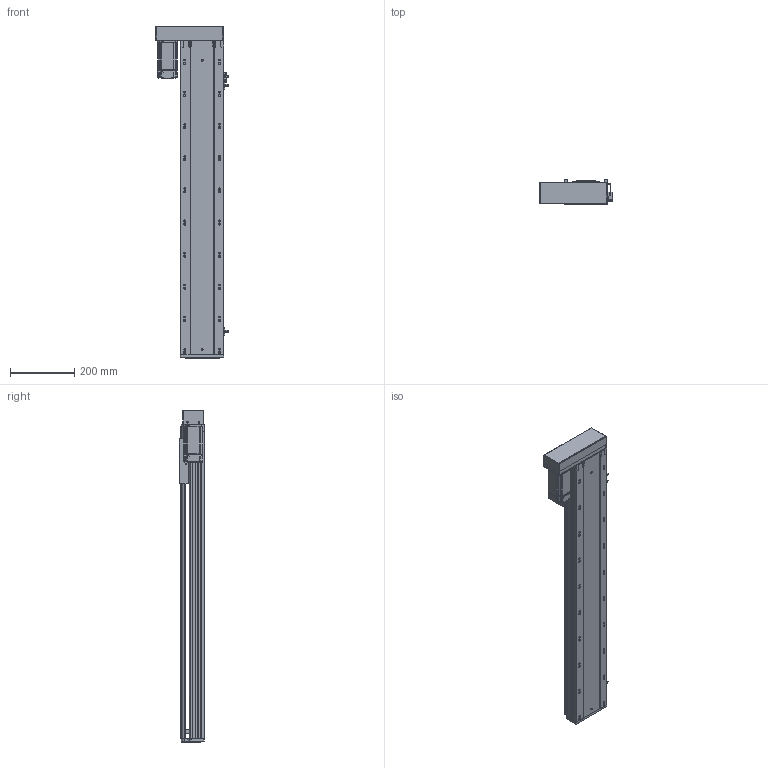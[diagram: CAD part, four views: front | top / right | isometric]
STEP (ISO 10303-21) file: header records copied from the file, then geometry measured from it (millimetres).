
FILE_DESCRIPTION (( 'STEP AP203' ), '1' );
FILE_NAME ('RY140-L1620-300-LK.SLDASM_750.step', '2021-02-22T02:46:45', ( '盈信电脑' ), ( '东莞市道滘镇水果街19号' ), 'SwSTEP 2.0', 'SolidWorks 2012', '' );
FILE_SCHEMA (( 'CONFIG_CONTROL_DESIGN' ));
Length unit declared in the file: millimetre
Products named in the file (14): RY140-L1620-300-LK.SLDASM_750; 侂狟400W侜督萇儂; RY140酘衵殏萇儂欶; RY140蛌殏萇儂假蚾啣; 15; RY140转折电机端支撑座; 滅袉蝶18-24; 覜茼ん672; RY120外置感应片(140共用）; 滅袉蝶18-10; RY140-300蛌殏倰第菁釱-LK_750; RY140臏賑輸; RY140-300蛌殏倰第奻裔啣-LK_750; RY140綴裔啣
Assembly tree (16 placements, depth 3):
  RY140-L1620-300-LK.SLDASM_750
    RY140-300蛌殏倰第菁釱-LK_750
    RY140臏賑輸
    RY140-300蛌殏倰第奻裔啣-LK_750
    RY140綴裔啣
    滅袉蝶18-24  x2
    滅袉蝶18-10
    覜茼ん672  x3
    RY120外置感应片(140共用）
    RY140转折电机端支撑座
    RY140蛌殏萇儂假蚾啣
    侂狟400W侜督萇儂
      15
    RY140酘衵殏萇儂欶
Bounding box: 225.2 x 78 x 1033 mm (x, y, z)
Volume: 3398604.1 mm3; surface area: 1249758.7 mm2
Topology: 15 solids, 15 shells, 2371 faces, 6600 edges, 4230 vertices
Faces by surface type: plane 1178, cylinder 902, cone 198, bspline 93
Entity records: 75755 total; most frequent: CARTESIAN_POINT 18517, ORIENTED_EDGE 11896, DIRECTION 11189, EDGE_CURVE 5948, VERTEX_POINT 3898, VECTOR 3741, LINE 3741, AXIS2_PLACEMENT_3D 3724
